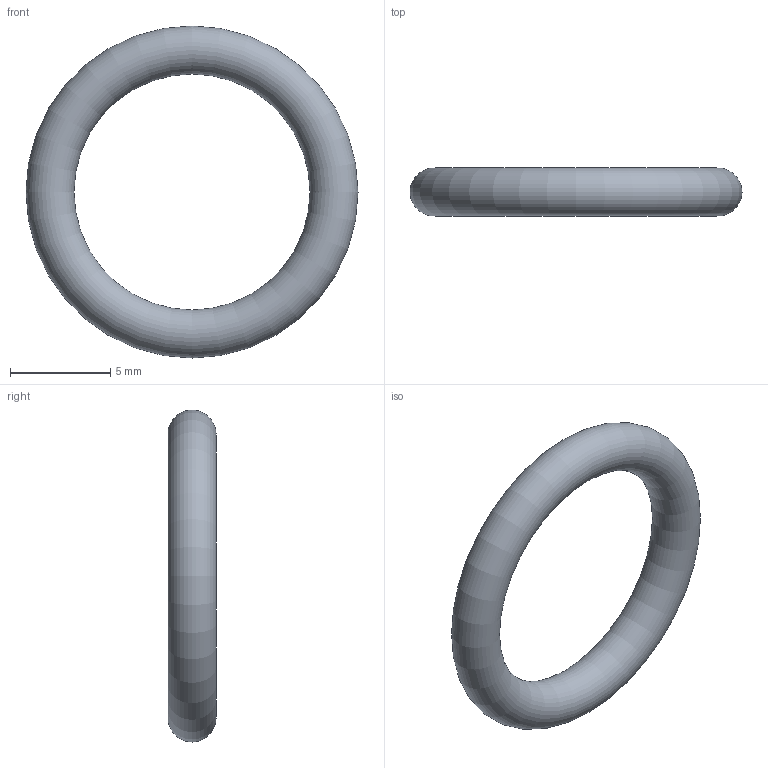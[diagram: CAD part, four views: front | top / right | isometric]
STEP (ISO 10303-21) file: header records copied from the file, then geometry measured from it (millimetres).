
FILE_DESCRIPTION( ( 'STEP AP203' ), '1' );
FILE_NAME( 'C:/Temp/Ganter_Step_05_03_2020/data/3_5/or638/O-Ring OR638-11.80-2.40-70.stp', '2020-03-12T13:44:25', ( 'License CC BY-ND 4.0' ), ( 'CADENAS' ), ' ', 'PARTsolutions', ' ' );
FILE_SCHEMA( ( 'CONFIG_CONTROL_DESIGN' ) );
Length unit declared in the file: millimetre
Products named in the file (1): _O-Ring OR638-11.80-2.40-70
Bounding box: 16.6 x 2.4 x 16.6 mm (x, y, z)
Volume: 201.8 mm3; surface area: 336.4 mm2
Topology: 1 solids, 1 shells, 1 faces, 2 edges, 1 vertices
Faces by surface type: torus 1
Entity records: 62 total; most frequent: CC_DESIGN_PERSON_AND_ORGANIZATION_ASSIGNMENT 5, PERSON_AND_ORGANIZATION_ROLE 4, DIRECTION 4, CARTESIAN_POINT 3, DATE_TIME_ROLE 2, CC_DESIGN_DATE_AND_TIME_ASSIGNMENT 2, AXIS2_PLACEMENT_3D 2, DIMENSIONAL_EXPONENTS 2
